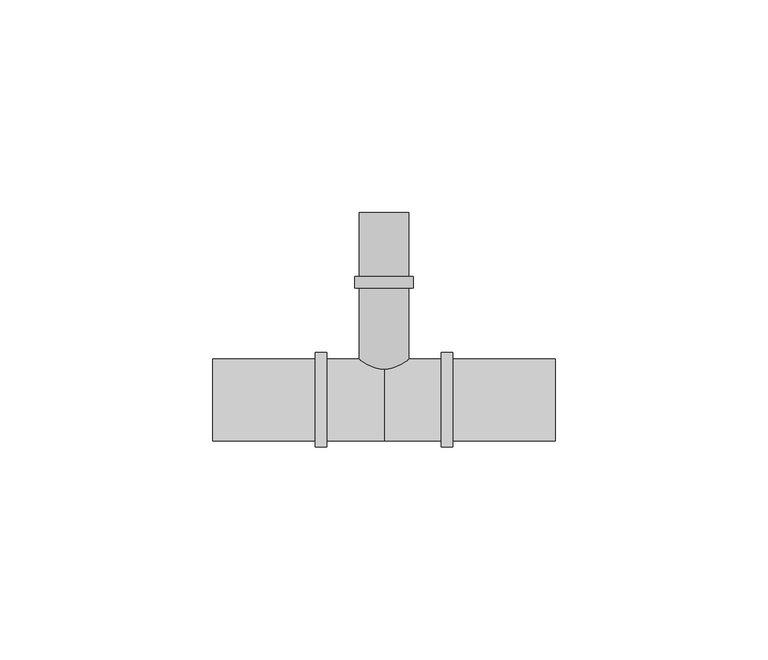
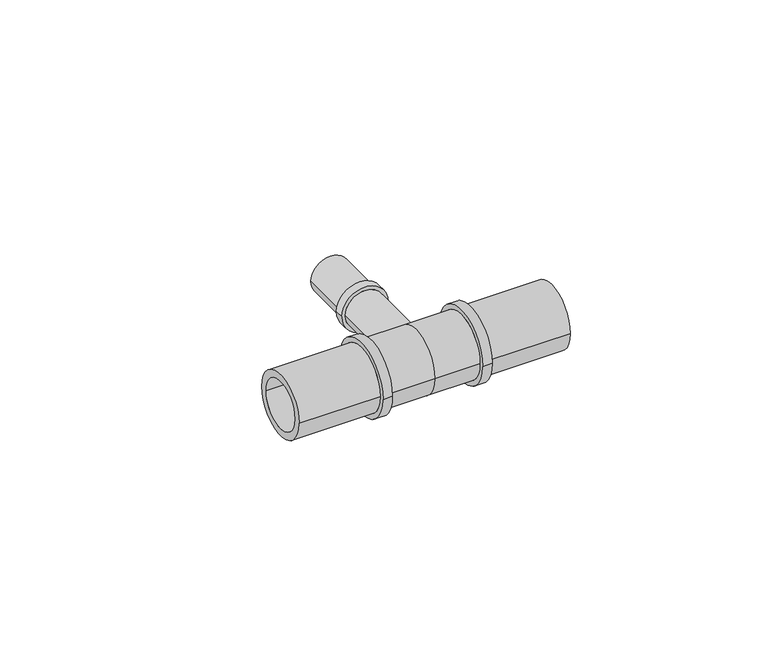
"""IFC4 building model written with IfcOpenShell, lengths in millimetres: pipe fitting geometry, FASTLOC_T-piece_LX : FSL T-Piece LX PL."""

from ifc_helpers import new_model, si_unit, frame, origin, place, context, project, spatial, polyline, circle_curve, source, transform, mapped, element, save
from ifc_brep_helpers import plane_surface, cylinder_surface, revolved_surface, advanced_brep


def pipe_fitting_70687c7d(model_context):
    return source(origin(), model_context, "Body", "AdvancedBrep", [
        advanced_brep(
        [(3.95, 44.0, 0.0), (-3.95, 44.0, 0.0), (-3.95, 0.0, 0.0), (3.95, 0.0, 0.0), (5.8, 0.0, 0.0), (-5.8, 0.0, 0.0), (-5.8, 26.29, 0.0), (5.8, 26.29, 0.0), (6.9, 26.29, 0.0), (-6.9, 26.29, 0.0), (-6.9, 29.0, 0.0), (6.9, 29.0, 0.0), (5.8, 29.0, 0.0), (-5.8, 29.0, 0.0), (-5.8, 44.0, 0.0), (5.8, 44.0, 0.0)],
        [
            (0, 1, circle_curve(frame((0.0, 44.0, 0.0), z_axis=(0.0, 1.0, 0.0), x_axis=(-1.0, 0.0, 0.0)), 3.95)),
            (1, 2),
            (2, 3, circle_curve(frame((0.0, 0.0, 0.0), z_axis=(0.0, -1.0, 0.0), x_axis=(-1.0, 0.0, 0.0)), 3.95)),
            (3, 0),
            (4, 5, circle_curve(frame((0.0, 0.0, 0.0), z_axis=(0.0, 1.0, 0.0), x_axis=(-1.0, 0.0, 0.0)), 5.8)),
            (5, 6),
            (6, 7, circle_curve(frame((0.0, 26.29, 0.0), z_axis=(0.0, -1.0, 0.0), x_axis=(-1.0, 0.0, 0.0)), 5.8)),
            (7, 4),
            (8, 9, circle_curve(frame((0.0, 26.29, 0.0), z_axis=(0.0, 1.0, 0.0), x_axis=(-1.0, 0.0, 0.0)), 6.9)),
            (9, 10),
            (10, 11, circle_curve(frame((0.0, 29.0, 0.0), z_axis=(0.0, -1.0, 0.0), x_axis=(-1.0, 0.0, 0.0)), 6.9)),
            (11, 8),
            (12, 13, circle_curve(frame((0.0, 29.0, 0.0), z_axis=(0.0, 1.0, 0.0), x_axis=(-1.0, 0.0, 0.0)), 5.8)),
            (13, 14),
            (14, 15, circle_curve(frame((0.0, 44.0, 0.0), z_axis=(0.0, -1.0, 0.0), x_axis=(-1.0, 0.0, 0.0)), 5.8)),
            (15, 12),
            (1, 0, circle_curve(frame((0.0, 44.0, 0.0), z_axis=(0.0, 1.0, 0.0), x_axis=(1.0, 0.0, 0.0)), 3.95)),
            (3, 2, circle_curve(frame((0.0, 0.0, 0.0), z_axis=(0.0, -1.0, 0.0), x_axis=(1.0, 0.0, 0.0)), 3.95)),
            (4, 5, circle_curve(frame((0.0, 0.0, 0.0), z_axis=(0.0, -1.0, 0.0), x_axis=(1.0, 0.0, 0.0)), 5.8)),
            (7, 6, circle_curve(frame((0.0, 26.29, 0.0), z_axis=(0.0, -1.0, 0.0), x_axis=(1.0, 0.0, 0.0)), 5.8)),
            (8, 9, circle_curve(frame((0.0, 26.29, 0.0), z_axis=(0.0, -1.0, 0.0), x_axis=(1.0, 0.0, 0.0)), 6.9)),
            (11, 10, circle_curve(frame((0.0, 29.0, 0.0), z_axis=(0.0, -1.0, 0.0), x_axis=(1.0, 0.0, 0.0)), 6.9)),
            (12, 13, circle_curve(frame((0.0, 29.0, 0.0), z_axis=(0.0, -1.0, 0.0), x_axis=(1.0, 0.0, 0.0)), 5.8)),
            (15, 14, circle_curve(frame((0.0, 44.0, 0.0), z_axis=(0.0, -1.0, 0.0), x_axis=(1.0, 0.0, 0.0)), 5.8)),
        ],
        [
            revolved_surface(polyline([(-3.95, 0.0, 0.0), (-3.95, 44.0, 0.0)]), (0.0, 0.0, 0.0), (0.0, -1.0, 0.0)),
            cylinder_surface(frame((0.0, 0.0, 0.0), z_axis=(0.0, -1.0, 0.0), x_axis=(-1.0, 0.0, 0.0)), 5.8),
            cylinder_surface(frame((0.0, 0.0, 0.0), z_axis=(0.0, -1.0, 0.0), x_axis=(-1.0, 0.0, 0.0)), 6.9),
            revolved_surface(polyline([(3.95, 0.0, 0.0), (3.95, 44.0, 0.0)]), (0.0, 0.0, 0.0), (0.0, -1.0, 0.0)),
            plane_surface(frame((0.0, 0.0, 0.0), z_axis=(0.0, -1.0, 0.0), x_axis=(1.0, 0.0, 0.0))),
            cylinder_surface(frame((0.0, 0.0, 0.0), z_axis=(0.0, -1.0, 0.0), x_axis=(1.0, 0.0, 0.0)), 5.8),
            plane_surface(frame((0.0, 26.29, 0.0), z_axis=(0.0, -1.0, 0.0), x_axis=(1.0, 0.0, 0.0))),
            cylinder_surface(frame((0.0, 0.0, 0.0), z_axis=(0.0, -1.0, 0.0), x_axis=(1.0, 0.0, 0.0)), 6.9),
            plane_surface(frame((0.0, 29.0, 0.0), z_axis=(0.0, 1.0, 0.0), x_axis=(1.0, 0.0, 0.0))),
            plane_surface(frame((0.0, 44.0, 0.0), z_axis=(0.0, 1.0, 0.0), x_axis=(1.0, 0.0, 0.0))),
        ],
        [
            (0, [[1, 2, 3, 4]]),
            (1, [[5, 6, 7, 8]]),
            (2, [[9, 10, 11, 12]]),
            (1, [[13, 14, 15, 16]]),
            (3, [[17, -4, 18, -2]]),
            (4, [[19, -5], [-18, -3]]),
            (5, [[-19, -8, 20, -6]]),
            (6, [[21, -9], [-20, -7]]),
            (7, [[-21, -12, 22, -10]]),
            (8, [[-22, -11], [23, -13]]),
            (5, [[-23, -16, 24, -14]]),
            (9, [[-24, -15], [-17, -1]]),
        ],
    ),
        advanced_brep(
        [(0.0, 9.6, 0.0), (0.0, -9.6, 0.0), (-13.4, -9.6, 0.0), (-13.4, 9.6, 0.0), (13.4, 9.6, 0.0), (13.4, -9.6, 0.0), (16.2, 11.1, 0.0), (16.2, -11.1, 0.0), (13.4, -11.1, 0.0), (13.4, 11.1, 0.0), (40.2, 9.6, 0.0), (40.2, -9.6, 0.0), (16.2, -9.6, 0.0), (16.2, 9.6, 0.0), (-16.2, 9.6, 0.0), (-16.2, -9.6, 0.0), (-40.2, -9.6, 0.0), (-40.2, 9.6, 0.0), (-13.4, 11.1, 0.0), (-13.4, -11.1, 0.0), (-16.2, -11.1, 0.0), (-16.2, 11.1, 0.0), (40.2, -7.35, 0.0), (40.2, 7.35, 0.0), (-40.2, 7.35, 0.0), (-40.2, -7.35, 0.0), (0.0, 7.35, 0.0), (0.0, -7.35, 0.0)],
        [
            (0, 1, circle_curve(frame((0.0, 0.0, 0.0), z_axis=(-1.0, 0.0, 0.0), x_axis=(0.0, -1.0, 0.0)), 9.6)),
            (1, 2),
            (2, 3, circle_curve(frame((-13.4, 0.0, 0.0), z_axis=(1.0, 0.0, 0.0), x_axis=(0.0, -1.0, 0.0)), 9.6)),
            (3, 0),
            (4, 5, circle_curve(frame((13.4, 0.0, 0.0), z_axis=(-1.0, 0.0, 0.0), x_axis=(0.0, -1.0, 0.0)), 9.6)),
            (5, 1),
            (0, 4),
            (6, 7, circle_curve(frame((16.2, 0.0, 0.0), z_axis=(-1.0, 0.0, 0.0), x_axis=(0.0, -1.0, 0.0)), 11.1)),
            (7, 8),
            (8, 9, circle_curve(frame((13.4, 0.0, 0.0), z_axis=(1.0, 0.0, 0.0), x_axis=(0.0, -1.0, 0.0)), 11.1)),
            (9, 6),
            (10, 11, circle_curve(frame((40.2, 0.0, 0.0), z_axis=(-1.0, 0.0, 0.0), x_axis=(0.0, -1.0, 0.0)), 9.6)),
            (11, 12),
            (12, 13, circle_curve(frame((16.2, 0.0, 0.0), z_axis=(1.0, 0.0, 0.0), x_axis=(0.0, -1.0, 0.0)), 9.6)),
            (13, 10),
            (14, 15, circle_curve(frame((-16.2, 0.0, 0.0), z_axis=(-1.0, 0.0, 0.0), x_axis=(0.0, -1.0, 0.0)), 9.6)),
            (15, 16),
            (16, 17, circle_curve(frame((-40.2, 0.0, 0.0), z_axis=(1.0, 0.0, 0.0), x_axis=(0.0, -1.0, 0.0)), 9.6)),
            (17, 14),
            (18, 19, circle_curve(frame((-13.4, 0.0, 0.0), z_axis=(-1.0, 0.0, 0.0), x_axis=(0.0, -1.0, 0.0)), 11.1)),
            (19, 20),
            (20, 21, circle_curve(frame((-16.2, 0.0, 0.0), z_axis=(1.0, 0.0, 0.0), x_axis=(0.0, -1.0, 0.0)), 11.1)),
            (21, 18),
            (18, 19, circle_curve(frame((-13.4, 0.0, 0.0), z_axis=(1.0, 0.0, 0.0), x_axis=(0.0, 1.0, 0.0)), 11.1)),
            (2, 3, circle_curve(frame((-13.4, 0.0, 0.0), z_axis=(-1.0, 0.0, 0.0), x_axis=(0.0, 1.0, 0.0)), 9.6)),
            (1, 0, circle_curve(frame((0.0, 0.0, 0.0), z_axis=(-1.0, 0.0, 0.0), x_axis=(0.0, 1.0, 0.0)), 9.6)),
            (5, 4, circle_curve(frame((13.4, 0.0, 0.0), z_axis=(-1.0, 0.0, 0.0), x_axis=(0.0, 1.0, 0.0)), 9.6)),
            (8, 9, circle_curve(frame((13.4, 0.0, 0.0), z_axis=(-1.0, 0.0, 0.0), x_axis=(0.0, 1.0, 0.0)), 11.1)),
            (7, 6, circle_curve(frame((16.2, 0.0, 0.0), z_axis=(-1.0, 0.0, 0.0), x_axis=(0.0, 1.0, 0.0)), 11.1)),
            (12, 13, circle_curve(frame((16.2, 0.0, 0.0), z_axis=(-1.0, 0.0, 0.0), x_axis=(0.0, 1.0, 0.0)), 9.6)),
            (11, 10, circle_curve(frame((40.2, 0.0, 0.0), z_axis=(-1.0, 0.0, 0.0), x_axis=(0.0, 1.0, 0.0)), 9.6)),
            (22, 23, circle_curve(frame((40.2, 0.0, 0.0), z_axis=(-1.0, 0.0, 0.0), x_axis=(0.0, 1.0, 0.0)), 7.35)),
            (23, 22, circle_curve(frame((40.2, 0.0, 0.0), z_axis=(-1.0, 0.0, 0.0), x_axis=(0.0, -1.0, 0.0)), 7.35)),
            (16, 17, circle_curve(frame((-40.2, 0.0, 0.0), z_axis=(-1.0, 0.0, 0.0), x_axis=(0.0, 1.0, 0.0)), 9.6)),
            (24, 25, circle_curve(frame((-40.2, 0.0, 0.0), z_axis=(1.0, 0.0, 0.0), x_axis=(0.0, 1.0, 0.0)), 7.35)),
            (25, 24, circle_curve(frame((-40.2, 0.0, 0.0), z_axis=(1.0, 0.0, 0.0), x_axis=(0.0, -1.0, 0.0)), 7.35)),
            (15, 14, circle_curve(frame((-16.2, 0.0, 0.0), z_axis=(-1.0, 0.0, 0.0), x_axis=(0.0, 1.0, 0.0)), 9.6)),
            (20, 21, circle_curve(frame((-16.2, 0.0, 0.0), z_axis=(-1.0, 0.0, 0.0), x_axis=(0.0, 1.0, 0.0)), 11.1)),
            (26, 27, circle_curve(frame((0.0, 0.0, 0.0), z_axis=(-1.0, 0.0, 0.0), x_axis=(0.0, -1.0, 0.0)), 7.35)),
            (27, 22),
            (23, 26),
            (25, 27),
            (26, 24),
            (27, 26, circle_curve(frame((0.0, 0.0, 0.0), z_axis=(-1.0, 0.0, 0.0), x_axis=(0.0, 1.0, 0.0)), 7.35)),
        ],
        [
            cylinder_surface(frame((0.0, 0.0, 0.0), z_axis=(1.0, 0.0, 0.0), x_axis=(0.0, -1.0, 0.0)), 9.6),
            cylinder_surface(frame((0.0, 0.0, 0.0), z_axis=(1.0, 0.0, 0.0), x_axis=(0.0, -1.0, 0.0)), 11.1),
            plane_surface(frame((-13.4, 0.0, 0.0), z_axis=(1.0, 0.0, 0.0), x_axis=(0.0, 1.0, 0.0))),
            cylinder_surface(frame((0.0, 0.0, 0.0), z_axis=(1.0, 0.0, 0.0), x_axis=(0.0, 1.0, 0.0)), 9.6),
            plane_surface(frame((13.4, 0.0, 0.0), z_axis=(-1.0, 0.0, 0.0), x_axis=(0.0, 1.0, 0.0))),
            cylinder_surface(frame((0.0, 0.0, 0.0), z_axis=(1.0, 0.0, 0.0), x_axis=(0.0, 1.0, 0.0)), 11.1),
            plane_surface(frame((16.2, 0.0, 0.0), z_axis=(1.0, 0.0, 0.0), x_axis=(0.0, 1.0, 0.0))),
            plane_surface(frame((40.2, 0.0, 0.0), z_axis=(1.0, 0.0, 0.0), x_axis=(0.0, 1.0, 0.0))),
            plane_surface(frame((-40.2, 0.0, 0.0), z_axis=(-1.0, 0.0, 0.0), x_axis=(0.0, 1.0, 0.0))),
            plane_surface(frame((-16.2, 0.0, 0.0), z_axis=(-1.0, 0.0, 0.0), x_axis=(0.0, 1.0, 0.0))),
            revolved_surface(polyline([(40.2, -7.35, 0.0), (0.0, -7.35, 0.0)]), (0.0, 0.0, 0.0), (1.0, 0.0, 0.0)),
            revolved_surface(polyline([(0.0, -7.35, 0.0), (-40.2, -7.35, 0.0)]), (0.0, 0.0, 0.0), (1.0, 0.0, 0.0)),
            revolved_surface(polyline([(40.2, 7.35, 0.0), (0.0, 7.35, 0.0)]), (0.0, 0.0, 0.0), (1.0, 0.0, 0.0)),
            revolved_surface(polyline([(0.0, 7.35, 0.0), (-40.2, 7.35, 0.0)]), (0.0, 0.0, 0.0), (1.0, 0.0, 0.0)),
        ],
        [
            (0, [[1, 2, 3, 4]]),
            (0, [[5, 6, -1, 7]]),
            (1, [[8, 9, 10, 11]]),
            (0, [[12, 13, 14, 15]]),
            (0, [[16, 17, 18, 19]]),
            (1, [[20, 21, 22, 23]]),
            (2, [[24, -20], [25, -3]]),
            (3, [[26, -4, -25, -2]]),
            (3, [[27, -7, -26, -6]]),
            (4, [[28, -10], [-27, -5]]),
            (5, [[29, -11, -28, -9]]),
            (6, [[-29, -8], [30, -14]]),
            (3, [[31, -15, -30, -13]]),
            (7, [[-31, -12], [32, 33]]),
            (8, [[34, -18], [35, 36]]),
            (3, [[37, -19, -34, -17]]),
            (9, [[38, -22], [-37, -16]]),
            (5, [[-24, -23, -38, -21]]),
            (10, [[39, 40, -33, 41]]),
            (11, [[-36, 42, -39, 43]]),
            (12, [[44, -41, -32, -40]]),
            (13, [[-35, -43, -44, -42]]),
        ],
    ),
    ])


if __name__ == "__main__":
    model = new_model("IFC4")
    model_context = context("Model", 3, world=origin())
    ifc_project = project(units=[si_unit("LENGTHUNIT", "METRE", prefix="MILLI")], contexts=[model_context])
    site = spatial("IfcSite", under=ifc_project)
    building = spatial("IfcBuilding", under=site)
    placement = place(None, origin())
    pipe_fitting_shape = pipe_fitting_70687c7d(model_context)
    element("IfcPipeFitting", 1, ObjectType="FASTLOC_T-piece_LX : FSL T-Piece LX PL", at=placement, inside=building, context=model_context, shape_type="MappedRepresentation", body=[
        mapped(pipe_fitting_shape, transform((0.0, 0.0, 0.0), x_axis=(1.0, 0.0, 0.0), y_axis=(0.0, 1.0, 0.0), z_axis=(0.0, 0.0, 1.0))),
    ])
    save(model, "model.ifc")
